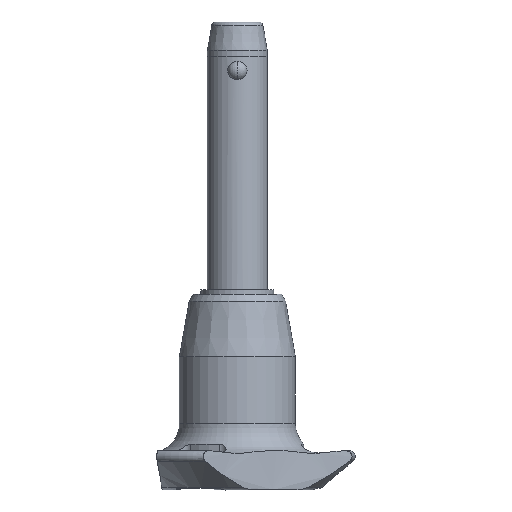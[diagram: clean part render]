
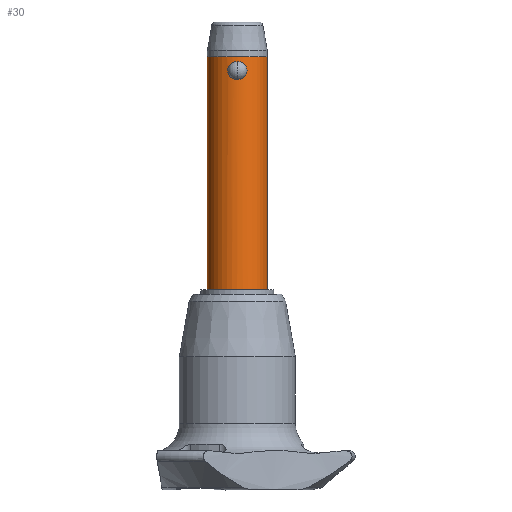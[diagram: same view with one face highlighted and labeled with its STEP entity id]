
A CAD part, front view. The second image highlights one B-rep face of the part: STEP entity #30.
In plain terms, the highlighted cylindrical face has radius 5 mm (diameter 10 mm), a partial arc.
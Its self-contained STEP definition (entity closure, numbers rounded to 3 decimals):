
#30 = ADVANCED_FACE ( 'NONE', ( #171, #1723 ), #1279, .T. ) ;
#92 = CARTESIAN_POINT ( 'NONE',  ( -1.383, -4.805, 2.299 ) ) ;
#101 = CARTESIAN_POINT ( 'NONE',  ( 0., 0., 3.84 ) ) ;
#119 = CARTESIAN_POINT ( 'NONE',  ( -1.394, -4.802, 0.731 ) ) ;
#136 = CARTESIAN_POINT ( 'NONE',  ( 0., 0., -35. ) ) ;
#171 = FACE_OUTER_BOUND ( 'NONE', #1649, .T. ) ;
#186 = CARTESIAN_POINT ( 'NONE',  ( 0., -5., 0. ) ) ;
#191 = VERTEX_POINT ( 'NONE', #2272 ) ;
#278 = CARTESIAN_POINT ( 'NONE',  ( -0.412, -4.987, 0.037 ) ) ;
#289 = CARTESIAN_POINT ( 'NONE',  ( -1.047, -4.89, 2.676 ) ) ;
#400 = CARTESIAN_POINT ( 'NONE',  ( 0.412, -4.987, 2.996 ) ) ;
#465 = CARTESIAN_POINT ( 'NONE',  ( 5., 0., -35. ) ) ;
#518 = CARTESIAN_POINT ( 'NONE',  ( -1.047, -4.89, 0.357 ) ) ;
#520 = AXIS2_PLACEMENT_3D ( 'NONE', #2152, #1932, #2604 ) ;
#531 = CARTESIAN_POINT ( 'NONE',  ( -1.551, -4.753, 1.11 ) ) ;
#543 = CARTESIAN_POINT ( 'NONE',  ( -0.791, -4.938, 2.844 ) ) ;
#554 = CARTESIAN_POINT ( 'NONE',  ( 0.966, -4.907, 2.738 ) ) ;
#611 = CARTESIAN_POINT ( 'NONE',  ( 0.412, -4.987, 0.037 ) ) ;
#632 = EDGE_CURVE ( 'NONE', #1934, #191, #2723, .T. ) ;
#725 = CARTESIAN_POINT ( 'NONE',  ( -1.272, -4.838, 0.564 ) ) ;
#734 = CARTESIAN_POINT ( 'NONE',  ( -1.604, -4.736, 1.724 ) ) ;
#775 = CARTESIAN_POINT ( 'NONE',  ( 0., -5., 3.033 ) ) ;
#846 = CARTESIAN_POINT ( 'NONE',  ( 0.7, -4.952, 2.888 ) ) ;
#860 = ORIENTED_EDGE ( 'NONE', *, *, #2285, .F. ) ;
#861 = CARTESIAN_POINT ( 'NONE',  ( 1.395, -4.802, 2.301 ) ) ;
#872 = CARTESIAN_POINT ( 'NONE',  ( 0., -5., 3.033 ) ) ;
#934 = CARTESIAN_POINT ( 'NONE',  ( -0.7, -4.952, 2.888 ) ) ;
#951 = CARTESIAN_POINT ( 'NONE',  ( -1.435, -4.79, 2.209 ) ) ;
#960 = CARTESIAN_POINT ( 'NONE',  ( -0.699, -4.952, 0.145 ) ) ;
#1060 = CARTESIAN_POINT ( 'NONE',  ( 1.594, -4.739, 1.721 ) ) ;
#1085 = VERTEX_POINT ( 'NONE', #2550 ) ;
#1162 = DIRECTION ( 'NONE',  ( 1., 0., 0. ) ) ;
#1209 = AXIS2_PLACEMENT_3D ( 'NONE', #101, #2478, #1162 ) ;
#1230 = LINE ( 'NONE', #2159, #2228 ) ;
#1244 = EDGE_CURVE ( 'NONE', #2424, #1977, #2514, .T. ) ;
#1261 = CARTESIAN_POINT ( 'NONE',  ( 0.966, -4.907, 0.296 ) ) ;
#1264 = VECTOR ( 'NONE', #1577, 1000. ) ;
#1279 = CYLINDRICAL_SURFACE ( 'NONE', #520, 5. ) ;
#1335 = ORIENTED_EDGE ( 'NONE', *, *, #2448, .F. ) ;
#1413 = CARTESIAN_POINT ( 'NONE',  ( 5., 0., -35. ) ) ;
#1434 = CARTESIAN_POINT ( 'NONE',  ( 0.792, -4.938, 2.844 ) ) ;
#1490 = CARTESIAN_POINT ( 'NONE',  ( 1.196, -4.855, 0.493 ) ) ;
#1520 = CARTESIAN_POINT ( 'NONE',  ( 1.265, -4.838, 0.57 ) ) ;
#1577 = DIRECTION ( 'NONE',  ( 0., 0., 1. ) ) ;
#1587 = CARTESIAN_POINT ( 'NONE',  ( 0., -5., 0. ) ) ;
#1647 = CARTESIAN_POINT ( 'NONE',  ( 1.434, -4.79, 0.822 ) ) ;
#1649 = EDGE_LOOP ( 'NONE', ( #860, #1974, #2000, #1776 ) ) ;
#1689 = ORIENTED_EDGE ( 'NONE', *, *, #1244, .F. ) ;
#1723 = FACE_BOUND ( 'NONE', #1757, .T. ) ;
#1734 = CARTESIAN_POINT ( 'NONE',  ( -5., 0., 3.84 ) ) ;
#1757 = EDGE_LOOP ( 'NONE', ( #1689, #1335 ) ) ;
#1776 = ORIENTED_EDGE ( 'NONE', *, *, #632, .F. ) ;
#1837 = CARTESIAN_POINT ( 'NONE',  ( -0.208, -5., 3.033 ) ) ;
#1850 = CARTESIAN_POINT ( 'NONE',  ( -1.56, -4.751, 1.931 ) ) ;
#1862 = CARTESIAN_POINT ( 'NONE',  ( -1.604, -4.736, 1.416 ) ) ;
#1864 = CARTESIAN_POINT ( 'NONE',  ( 0.792, -4.938, 0.19 ) ) ;
#1932 = DIRECTION ( 'NONE',  ( 0., 0., 1. ) ) ;
#1934 = VERTEX_POINT ( 'NONE', #1734 ) ;
#1969 = CARTESIAN_POINT ( 'NONE',  ( 1.047, -4.89, 0.356 ) ) ;
#1974 = ORIENTED_EDGE ( 'NONE', *, *, #2316, .F. ) ;
#1977 = VERTEX_POINT ( 'NONE', #1587 ) ;
#2000 = ORIENTED_EDGE ( 'NONE', *, *, #2547, .T. ) ;
#2043 = CIRCLE ( 'NONE', #2127, 5. ) ;
#2056 = CARTESIAN_POINT ( 'NONE',  ( -0.966, -4.907, 0.296 ) ) ;
#2081 = CARTESIAN_POINT ( 'NONE',  ( -0.412, -4.987, 2.997 ) ) ;
#2084 = CARTESIAN_POINT ( 'NONE',  ( 1.56, -4.751, 1.103 ) ) ;
#2127 = AXIS2_PLACEMENT_3D ( 'NONE', #136, #2192, #2429 ) ;
#2133 = CARTESIAN_POINT ( 'NONE',  ( 0.699, -4.952, 0.144 ) ) ;
#2143 = DIRECTION ( 'NONE',  ( 0., 0., 1. ) ) ;
#2150 = CARTESIAN_POINT ( 'NONE',  ( 1.048, -4.889, 2.676 ) ) ;
#2152 = CARTESIAN_POINT ( 'NONE',  ( 0., 0., -35. ) ) ;
#2159 = CARTESIAN_POINT ( 'NONE',  ( -5., 0., -35. ) ) ;
#2192 = DIRECTION ( 'NONE',  ( 0., 0., -1. ) ) ;
#2228 = VECTOR ( 'NONE', #2143, 1000. ) ;
#2244 = LINE ( 'NONE', #465, #1264 ) ;
#2248 = CARTESIAN_POINT ( 'NONE',  ( -1.197, -4.855, 2.539 ) ) ;
#2259 = CARTESIAN_POINT ( 'NONE',  ( 0., -5., 3.033 ) ) ;
#2272 = CARTESIAN_POINT ( 'NONE',  ( 5., 0., 3.84 ) ) ;
#2285 = EDGE_CURVE ( 'NONE', #1085, #1934, #1230, .T. ) ;
#2316 = EDGE_CURVE ( 'NONE', #2789, #1085, #2043, .T. ) ;
#2370 = CARTESIAN_POINT ( 'NONE',  ( 1.604, -4.736, 1.308 ) ) ;
#2399 = CARTESIAN_POINT ( 'NONE',  ( 1.519, -4.764, 2.021 ) ) ;
#2424 = VERTEX_POINT ( 'NONE', #775 ) ;
#2429 = DIRECTION ( 'NONE',  ( 1., 0., 0. ) ) ;
#2448 = EDGE_CURVE ( 'NONE', #1977, #2424, #2768, .T. ) ;
#2471 = CARTESIAN_POINT ( 'NONE',  ( -0.965, -4.907, 2.738 ) ) ;
#2478 = DIRECTION ( 'NONE',  ( 0., 0., 1. ) ) ;
#2493 = CARTESIAN_POINT ( 'NONE',  ( 0., -5., 0. ) ) ;
#2509 = CARTESIAN_POINT ( 'NONE',  ( -1.264, -4.838, 2.464 ) ) ;
#2514 = B_SPLINE_CURVE_WITH_KNOTS ( 'NONE', 3,
 ( #2259, #1837, #2081, #934, #543, #2471, #289, #2248, #2509, #92, #951, #1850, #734, #1862, #2705, #531, #2719, #119, #725, #518, #2056, #2747, #960, #278, #2695, #2493 ),
 .UNSPECIFIED., .F., .F.,
 ( 4, 2, 2, 2, 2, 2, 2, 2, 2, 2, 2, 2, 4 ),
 ( 0., 0.001, 0.001, 0.001, 0.002, 0.002, 0.002, 0.003, 0.003, 0.004, 0.004, 0.004, 0.005 ),
 .UNSPECIFIED. ) ;
#2533 = CARTESIAN_POINT ( 'NONE',  ( 1.604, -4.736, 1.619 ) ) ;
#2547 = EDGE_CURVE ( 'NONE', #2789, #191, #2244, .T. ) ;
#2550 = CARTESIAN_POINT ( 'NONE',  ( -5., 0., -35. ) ) ;
#2603 = CARTESIAN_POINT ( 'NONE',  ( 0.208, -5., 3.033 ) ) ;
#2604 = DIRECTION ( 'NONE',  ( 1., 0., 0. ) ) ;
#2620 = CARTESIAN_POINT ( 'NONE',  ( 1.384, -4.805, 0.735 ) ) ;
#2634 = CARTESIAN_POINT ( 'NONE',  ( 0.205, -5., 0. ) ) ;
#2695 = CARTESIAN_POINT ( 'NONE',  ( -0.205, -5., 0. ) ) ;
#2705 = CARTESIAN_POINT ( 'NONE',  ( -1.594, -4.739, 1.312 ) ) ;
#2719 = CARTESIAN_POINT ( 'NONE',  ( -1.519, -4.764, 1.013 ) ) ;
#2723 = CIRCLE ( 'NONE', #1209, 5. ) ;
#2747 = CARTESIAN_POINT ( 'NONE',  ( -0.792, -4.938, 0.19 ) ) ;
#2768 = B_SPLINE_CURVE_WITH_KNOTS ( 'NONE', 3,
 ( #186, #2634, #611, #2133, #1864, #1261, #1969, #1490, #1520, #2620, #1647, #2084, #2370, #2533, #1060, #2818, #2399, #861, #2837, #2150, #554, #1434, #846, #400, #2603, #872 ),
 .UNSPECIFIED., .F., .F.,
 ( 4, 2, 2, 2, 2, 2, 2, 2, 2, 2, 2, 2, 4 ),
 ( 0.005, 0.006, 0.006, 0.006, 0.006, 0.007, 0.007, 0.008, 0.008, 0.009, 0.009, 0.009, 0.01 ),
 .UNSPECIFIED. ) ;
#2789 = VERTEX_POINT ( 'NONE', #1413 ) ;
#2818 = CARTESIAN_POINT ( 'NONE',  ( 1.551, -4.753, 1.922 ) ) ;
#2837 = CARTESIAN_POINT ( 'NONE',  ( 1.272, -4.838, 2.47 ) ) ;
